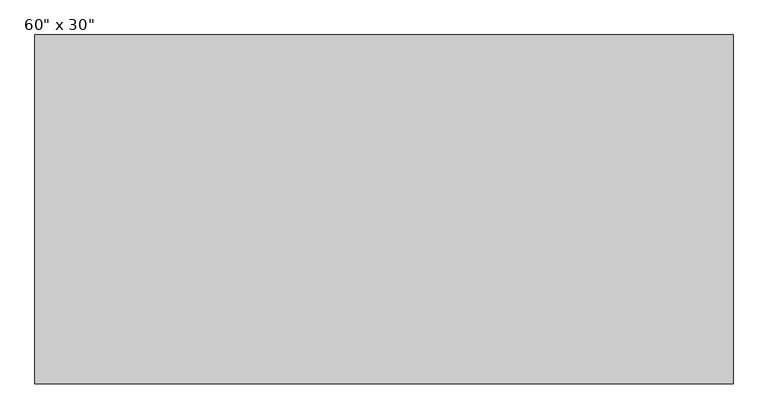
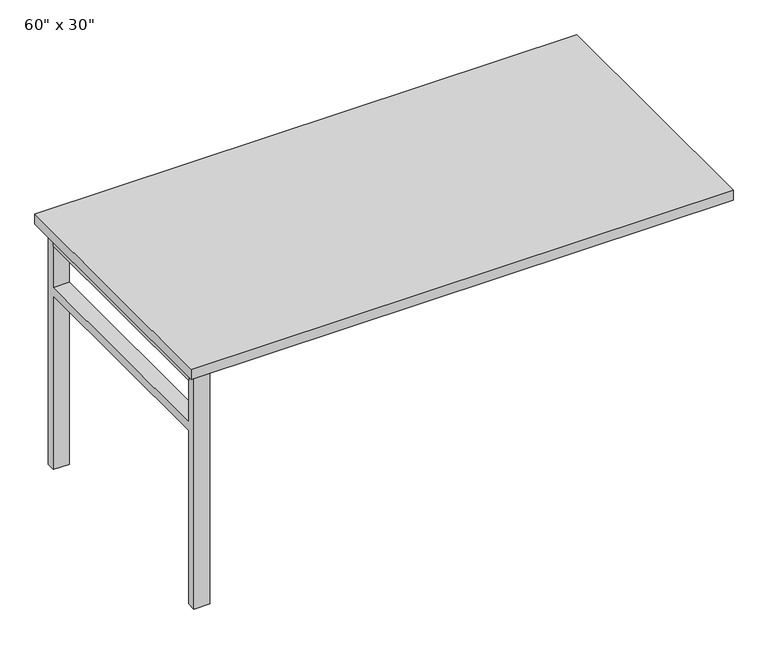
"""IFC4 building model written with IfcOpenShell, lengths in millimetres: furniture geometry."""

from ifc_helpers import new_model, si_unit, frame, origin, place, context, project, spatial, polyline, outline, extrude, source, transform, mapped, element, save


def furniture_33d8614d(model_context):
    return source(origin(), model_context, "Body", "SweptSolid", [
        extrude(outline(polyline([(762.0, 381.0), (762.0, -381.0), (-762.0, -381.0), (-762.0, 381.0), (762.0, 381.0)])), frame((0.0, 0.0, 706.4375), z_axis=(0.0, 0.0, 1.0), x_axis=(1.0, 0.0, 0.0)), (0.0, 0.0, 1.0), 30.1625),
        extrude(outline(polyline([(-695.325, 330.2), (-695.325, -330.2), (-739.775, -330.2), (-739.775, 330.2), (-695.325, 330.2)])), frame((0.0, 0.0, 665.1625), z_axis=(0.0, 0.0, 1.0), x_axis=(1.0, 0.0, 0.0)), (0.0, 0.0, 1.0), 41.275),
        extrude(outline(polyline([(-330.2, 515.9375), (-330.2, 0.0), (-355.6, 0.0), (-355.6, 706.4375), (-330.2, 706.4375), (-330.2, 541.3375), (330.2, 541.3375), (330.2, 706.4375), (355.6, 706.4375), (355.6, 0.0), (330.2, 0.0), (330.2, 515.9375), (-330.2, 515.9375)])), frame((-739.775, 0.0, 0.0), z_axis=(1.0, 0.0, 0.0), x_axis=(0.0, 1.0, 0.0)), (0.0, 0.0, 1.0), 44.45),
    ])


if __name__ == "__main__":
    model = new_model("IFC4")
    model_context = context("Model", 3, world=origin())
    ifc_project = project(units=[si_unit("LENGTHUNIT", "METRE", prefix="MILLI")], contexts=[model_context])
    site = spatial("IfcSite", under=ifc_project)
    building = spatial("IfcBuilding", under=site)
    placement = place(None, origin())
    furniture_shape = furniture_33d8614d(model_context)
    element("IfcFurniture", 1, ObjectType="Haworth_Convergent-Rectangular : 60\" x 30\"", at=placement, inside=building, context=model_context, shape_type="MappedRepresentation", body=[
        mapped(furniture_shape, transform((0.0, 0.0, 0.0), x_axis=(1.0, 0.0, 0.0), y_axis=(0.0, 1.0, 0.0), z_axis=(0.0, 0.0, 1.0))),
    ])
    save(model, "model.ifc")
